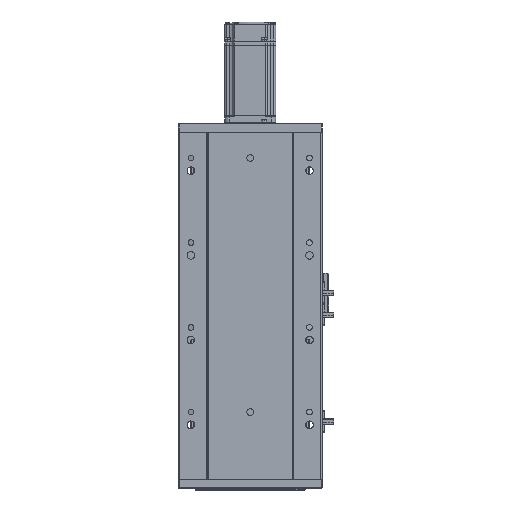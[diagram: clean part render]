
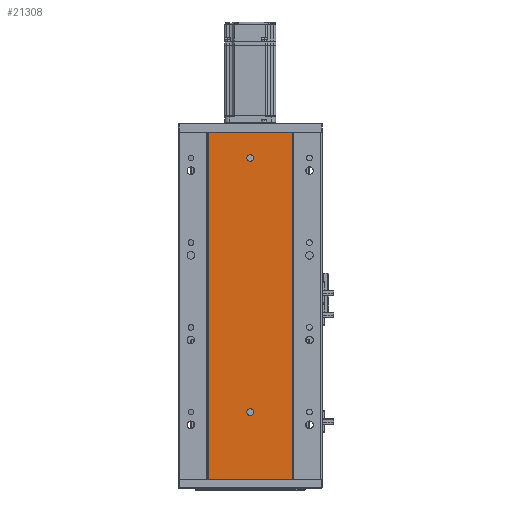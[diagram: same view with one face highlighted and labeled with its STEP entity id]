
A CAD part, front view. The second image highlights one B-rep face of the part: STEP entity #21308.
In plain terms, the highlighted planar face has unit normal (0, -1, 0).
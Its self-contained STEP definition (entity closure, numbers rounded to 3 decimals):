
#2838 = FACE_OUTER_BOUND ( 'NONE', #25142, .T. ) ;
#2864 = FACE_BOUND ( 'NONE', #25248, .T. ) ;
#2894 = FACE_BOUND ( 'NONE', #25241, .T. ) ;
#7118 = EDGE_CURVE ( 'NONE', #52098, #52021, #53738, .T. ) ;
#7173 = EDGE_CURVE ( 'NONE', #52041, #51998, #53828, .T. ) ;
#7247 = ORIENTED_EDGE ( 'NONE', *, *, #8663, .F. ) ;
#7260 = ORIENTED_EDGE ( 'NONE', *, *, #8706, .F. ) ;
#7330 = ORIENTED_EDGE ( 'NONE', *, *, #8614, .T. ) ;
#7334 = ORIENTED_EDGE ( 'NONE', *, *, #7173, .F. ) ;
#7345 = ORIENTED_EDGE ( 'NONE', *, *, #8618, .F. ) ;
#7358 = ORIENTED_EDGE ( 'NONE', *, *, #8672, .T. ) ;
#8576 = EDGE_CURVE ( 'NONE', #51729, #51697, #22552, .T. ) ;
#8614 = EDGE_CURVE ( 'NONE', #51681, #51683, #22554, .T. ) ;
#8618 = EDGE_CURVE ( 'NONE', #52021, #52098, #22575, .T. ) ;
#8663 = EDGE_CURVE ( 'NONE', #51998, #52041, #22641, .T. ) ;
#8672 = EDGE_CURVE ( 'NONE', #51729, #51681, #39650, .T. ) ;
#8706 = EDGE_CURVE ( 'NONE', #51697, #51683, #39657, .T. ) ;
#17036 = DIRECTION ( 'NONE',  ( 0., 1., 0. ) ) ;
#17038 = CARTESIAN_POINT ( 'NONE',  ( 0., 79.476, 410. ) ) ;
#17044 = DIRECTION ( 'NONE',  ( 0., 0., 1. ) ) ;
#17051 = PLANE ( 'NONE',  #47282 ) ;
#18016 = DIRECTION ( 'NONE',  ( 0., 0., -1. ) ) ;
#18025 = CARTESIAN_POINT ( 'NONE',  ( 136.47, 79.476, 380. ) ) ;
#18046 = DIRECTION ( 'NONE',  ( 0., -1., 0. ) ) ;
#18208 = DIRECTION ( 'NONE',  ( 0., 0., -1. ) ) ;
#18210 = CARTESIAN_POINT ( 'NONE',  ( 136.47, 79.476, 80. ) ) ;
#18223 = DIRECTION ( 'NONE',  ( 0., -1., 0. ) ) ;
#21308 = ADVANCED_FACE ( 'NONE', ( #2864, #2894, #2838 ), #17051, .F. ) ;
#21467 = CARTESIAN_POINT ( 'NONE',  ( 0., 79.476, 410. ) ) ;
#21510 = DIRECTION ( 'NONE',  ( 1., 0., 0. ) ) ;
#21522 = DIRECTION ( 'NONE',  ( 1., 0., 0. ) ) ;
#21525 = DIRECTION ( 'NONE',  ( 0., -1., 0. ) ) ;
#21537 = CARTESIAN_POINT ( 'NONE',  ( 0., 79.476, 0. ) ) ;
#21571 = DIRECTION ( 'NONE',  ( 0., 0., -1. ) ) ;
#21585 = CARTESIAN_POINT ( 'NONE',  ( 136.47, 79.476, 380. ) ) ;
#21641 = CARTESIAN_POINT ( 'NONE',  ( 136.47, 79.476, 80. ) ) ;
#21642 = DIRECTION ( 'NONE',  ( 0., 0., -1. ) ) ;
#21654 = DIRECTION ( 'NONE',  ( 0., -1., 0. ) ) ;
#21707 = CARTESIAN_POINT ( 'NONE',  ( 86.97, 79.476, 410. ) ) ;
#21720 = CARTESIAN_POINT ( 'NONE',  ( 86.97, 79.476, 273.333 ) ) ;
#21724 = CARTESIAN_POINT ( 'NONE',  ( 86.97, 79.476, 0. ) ) ;
#21730 = CARTESIAN_POINT ( 'NONE',  ( 86.97, 79.476, 136.667 ) ) ;
#21789 = CARTESIAN_POINT ( 'NONE',  ( 185.97, 79.476, 136.667 ) ) ;
#21839 = CARTESIAN_POINT ( 'NONE',  ( 185.97, 79.476, 273.333 ) ) ;
#21844 = CARTESIAN_POINT ( 'NONE',  ( 185.97, 79.476, 410. ) ) ;
#21850 = CARTESIAN_POINT ( 'NONE',  ( 185.97, 79.476, 0. ) ) ;
#22552 = LINE ( 'NONE', #21467, #22573 ) ;
#22554 = LINE ( 'NONE', #21537, #22618 ) ;
#22573 = VECTOR ( 'NONE', #21510, 1000. ) ;
#22575 = CIRCLE ( 'NONE', #46198, 4. ) ;
#22618 = VECTOR ( 'NONE', #21522, 1000. ) ;
#22641 = CIRCLE ( 'NONE', #46203, 4. ) ;
#23853 = ORIENTED_EDGE ( 'NONE', *, *, #7118, .F. ) ;
#23888 = ORIENTED_EDGE ( 'NONE', *, *, #8576, .F. ) ;
#25142 = EDGE_LOOP ( 'NONE', ( #7330, #7260, #23888, #7358 ) ) ;
#25241 = EDGE_LOOP ( 'NONE', ( #7247, #7334 ) ) ;
#25248 = EDGE_LOOP ( 'NONE', ( #7345, #23853 ) ) ;
#38381 = CARTESIAN_POINT ( 'NONE',  ( 86.97, 79.476, 410. ) ) ;
#38398 = CARTESIAN_POINT ( 'NONE',  ( 185.97, 79.476, 410. ) ) ;
#38415 = CARTESIAN_POINT ( 'NONE',  ( 86.97, 79.476, 0. ) ) ;
#38427 = CARTESIAN_POINT ( 'NONE',  ( 185.97, 79.476, 0. ) ) ;
#38698 = CARTESIAN_POINT ( 'NONE',  ( 136.47, 79.476, 376. ) ) ;
#38705 = CARTESIAN_POINT ( 'NONE',  ( 136.47, 79.476, 76. ) ) ;
#38729 = CARTESIAN_POINT ( 'NONE',  ( 136.47, 79.476, 84. ) ) ;
#38816 = CARTESIAN_POINT ( 'NONE',  ( 136.47, 79.476, 384. ) ) ;
#39650 = B_SPLINE_CURVE_WITH_KNOTS ( 'NONE', 3,
 ( #21707, #21720, #21730, #21724 ),
 .UNSPECIFIED., .F., .F.,
 ( 4, 4 ),
 ( 0., 1. ),
 .UNSPECIFIED. ) ;
#39657 = B_SPLINE_CURVE_WITH_KNOTS ( 'NONE', 3,
 ( #21844, #21839, #21789, #21850 ),
 .UNSPECIFIED., .F., .F.,
 ( 4, 4 ),
 ( 0., 1. ),
 .UNSPECIFIED. ) ;
#45674 = AXIS2_PLACEMENT_3D ( 'NONE', #18210, #18223, #18208 ) ;
#45726 = AXIS2_PLACEMENT_3D ( 'NONE', #18025, #18046, #18016 ) ;
#46198 = AXIS2_PLACEMENT_3D ( 'NONE', #21585, #21525, #21571 ) ;
#46203 = AXIS2_PLACEMENT_3D ( 'NONE', #21641, #21654, #21642 ) ;
#47282 = AXIS2_PLACEMENT_3D ( 'NONE', #17038, #17036, #17044 ) ;
#51681 = VERTEX_POINT ( 'NONE', #38415 ) ;
#51683 = VERTEX_POINT ( 'NONE', #38427 ) ;
#51697 = VERTEX_POINT ( 'NONE', #38398 ) ;
#51729 = VERTEX_POINT ( 'NONE', #38381 ) ;
#51998 = VERTEX_POINT ( 'NONE', #38705 ) ;
#52021 = VERTEX_POINT ( 'NONE', #38698 ) ;
#52041 = VERTEX_POINT ( 'NONE', #38729 ) ;
#52098 = VERTEX_POINT ( 'NONE', #38816 ) ;
#53738 = CIRCLE ( 'NONE', #45726, 4. ) ;
#53828 = CIRCLE ( 'NONE', #45674, 4. ) ;
